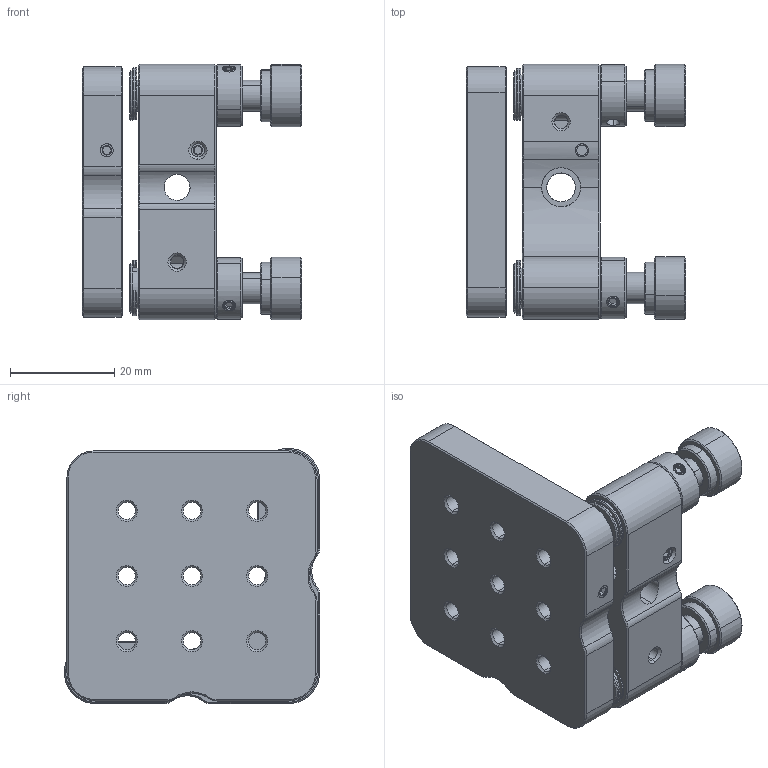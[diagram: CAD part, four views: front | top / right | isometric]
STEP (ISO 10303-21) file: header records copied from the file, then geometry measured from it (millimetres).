
FILE_DESCRIPTION (( 'STEP AP203' ), '1' );
FILE_NAME ('1.1.1.34_ZJB-P2.0-3_光学调整架，48mmx48mm，带M4螺纹安装孔平台，3轴，A.STEP', '2022-05-09T08:39:32', ( '' ), ( '' ), 'SwSTEP 2.0', 'SolidWorks 2021', '' );
FILE_SCHEMA (( 'CONFIG_CONTROL_DESIGN' ));
Length unit declared in the file: millimetre
Products named in the file (1): 1.1.1.34_ZJB-P2.0-3_光学调整架，48mmx48mm，带M4螺纹安装孔平台，3轴，A
Bounding box: 42.13 x 49 x 49 mm (x, y, z)
Surface area: 17853.7 mm2 (no closed solid volume)
Topology: 0 solids, 33 shells, 462 faces, 1212 edges, 782 vertices
Faces by surface type: cone 175, cylinder 158, plane 123, torus 6
Entity records: 15701 total; most frequent: CARTESIAN_POINT 4101, DIRECTION 2551, ORIENTED_EDGE 2167, EDGE_CURVE 1212, AXIS2_PLACEMENT_3D 1006, VERTEX_POINT 782, EDGE_LOOP 547, CIRCLE 543
